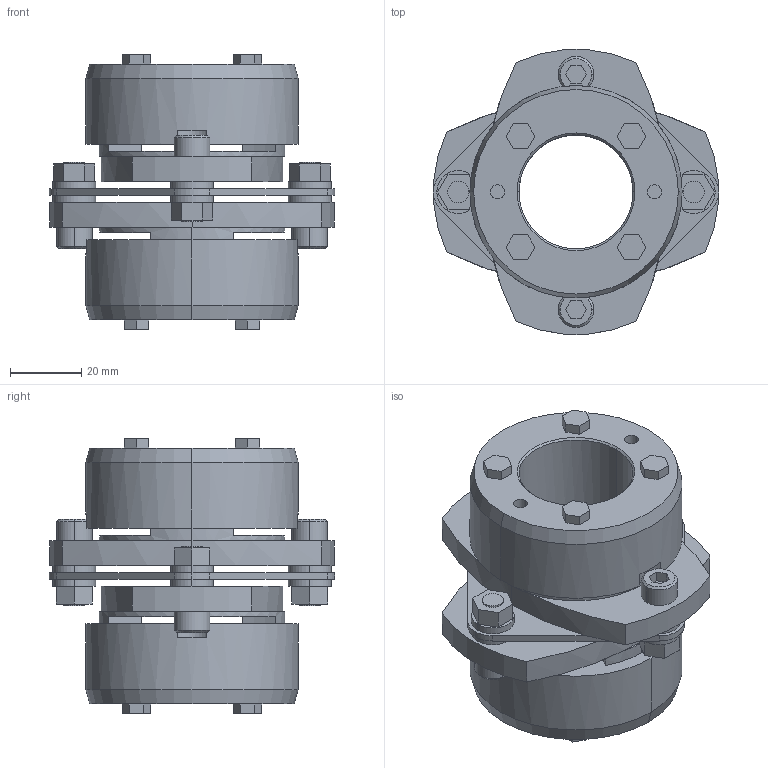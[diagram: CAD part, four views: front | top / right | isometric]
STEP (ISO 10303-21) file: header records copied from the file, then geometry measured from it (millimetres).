
FILE_DESCRIPTION((''),'2;1');
FILE_NAME('LCS-80T7-32×32.stp','2011-09-12T16:56:33',(''),(''),'AutoCAD STEP 2000i','AutoCAD 2000i',', , ');
FILE_SCHEMA(('CONFIG_CONTROL_DESIGN'));
Length unit declared in the file: millimetre
Products named in the file (12): LCS-80T7-32×32; 忣兜1; LC80T7-T032-1; LC80T7-T032; LC80T7-T030; LC80T7-T028; LC80T7-T024; LC80T7-T022; LC80T7-T019; LC80T7-T017-1; LC80T7-T017; LCS80-ITA
Assembly tree (12 placements, depth 2):
  LCS-80T7-32×32
    忣兜1
    LC80T7-T032-1
    LC80T7-T032  x2
    LC80T7-T030
    LC80T7-T028
    LC80T7-T024
    LC80T7-T022
    LC80T7-T019
    LC80T7-T017-1
    LC80T7-T017
    LCS80-ITA
Bounding box: 80 x 79.95 x 77.35 mm (x, y, z)
Volume: 141060.6 mm3; surface area: 43174.7 mm2
Topology: 1 solids, 1 shells, 260 faces, 644 edges, 420 vertices
Faces by surface type: plane 156, cylinder 84, cone 20
Entity records: 8025 total; most frequent: DIRECTION 1418, CARTESIAN_POINT 1337, ORIENTED_EDGE 1288, EDGE_CURVE 644, AXIS2_PLACEMENT_3D 501, VERTEX_POINT 420, VECTOR 416, LINE 416
